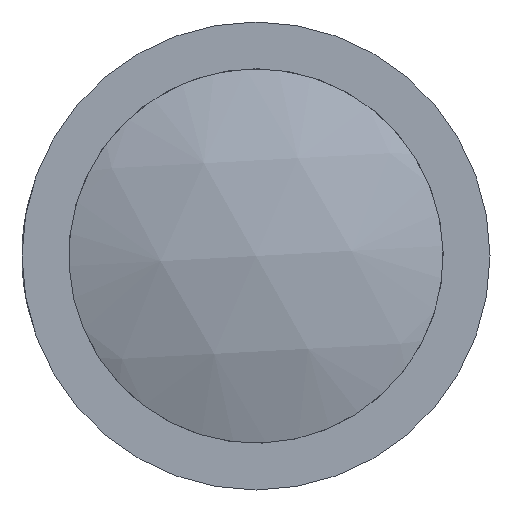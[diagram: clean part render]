
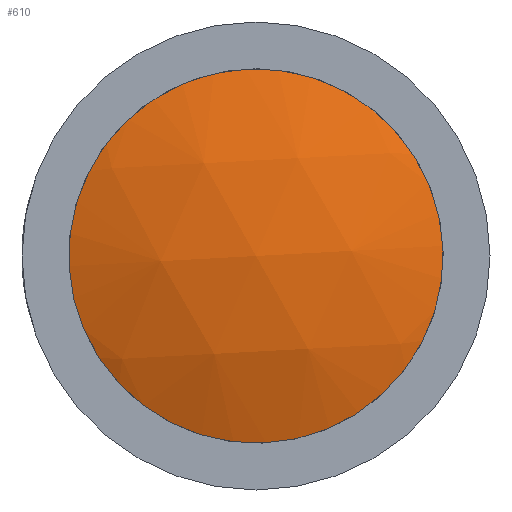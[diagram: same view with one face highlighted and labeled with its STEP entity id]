
A CAD part, left-side view. The second image highlights one B-rep face of the part: STEP entity #610.
In plain terms, the highlighted spherical face has radius 15.6 mm.
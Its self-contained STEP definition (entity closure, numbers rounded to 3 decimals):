
#587=CARTESIAN_POINT('',(1.5,5.991,-0.324));
#588=VERTEX_POINT('',#587);
#589=CARTESIAN_POINT('',(1.5,0.,0.0));
#590=DIRECTION('',(1.0,0.0,0.0));
#591=DIRECTION('',(0.0,0.0,1.0));
#592=AXIS2_PLACEMENT_3D('',#589,#590,#591);
#593=CIRCLE('',#592,6.);
#594=EDGE_CURVE('',#588,#588,#593,.T.);
#602=CARTESIAN_POINT('',(15.9,0.,0.));
#603=DIRECTION('',(0.,0.054,0.999));
#604=DIRECTION('',(1.0,0.0,0.0));
#605=AXIS2_PLACEMENT_3D('',#602,#603,#604);
#606=SPHERICAL_SURFACE('',#605,15.6);
#607=ORIENTED_EDGE('',*,*,#594,.F.);
#608=EDGE_LOOP('',(#607));
#609=FACE_OUTER_BOUND('',#608,.T.);
#610=ADVANCED_FACE('',(#609),#606,.T.);
